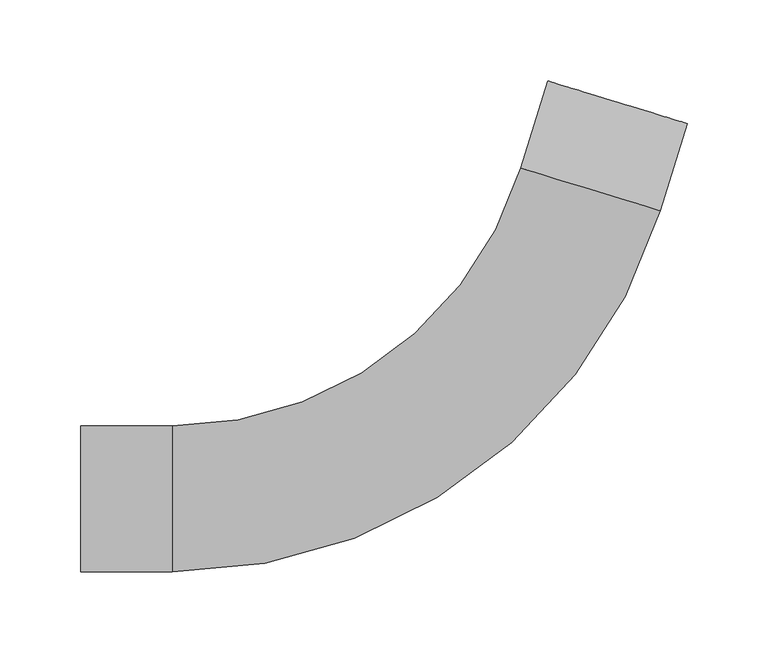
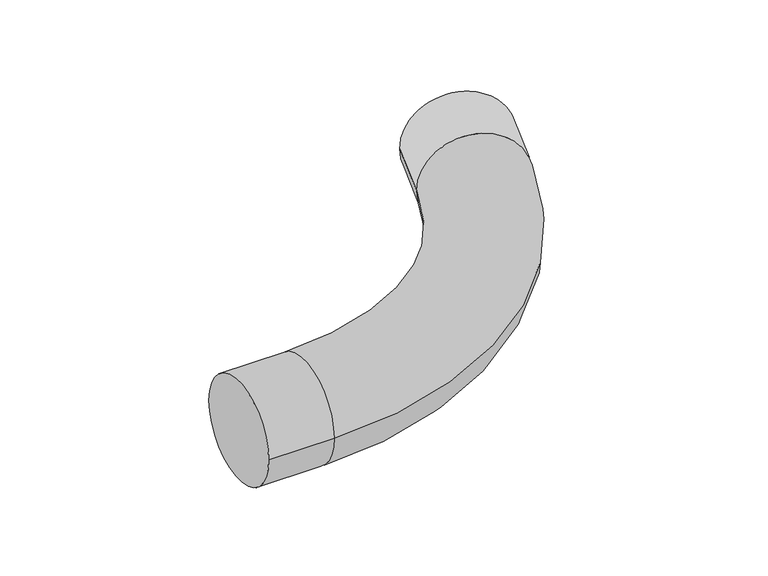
"""IFC4 building model written with IfcOpenShell, lengths in millimetres: cable carrier fitting geometry, Трубы гофрированные двустенные ПНД-ПВД : Трубы гофрированные двустенные ПНД-ПВД."""

from ifc_helpers import new_model, si_unit, point, frame, origin, place, context, project, spatial, circle_curve, ellipse_curve, trimmed, source, transform, mapped, element, save
from ifc_brep_helpers import plane_surface, cylinder_surface, revolved_surface, advanced_brep


def cable_carrier_fitting_97d35811(model_context):
    return source(origin(), model_context, "Body", "AdvancedBrep", [
        advanced_brep(
        [(-256.1894903, -45.0, 0.0), (-256.1894903, 45.0, 0.0), (-199.7894903, -45.0, 0.0), (-199.7894903, 45.0, 0.0), (15.3790798, 204.2163664, 0.0), (101.4465079, 177.902913, 0.0), (117.936272, 231.8385012, 0.0), (31.868844, 258.1519547, 0.0)],
        [
            (0, 1, circle_curve(frame((-256.1894903, 0.0, 0.0), z_axis=(-1.0, 0.0, 0.0), x_axis=(0.0, 1.0, 0.0)), 45.0)),
            (1, 0, circle_curve(frame((-256.1894903, 0.0, 0.0), z_axis=(-1.0, 0.0, 0.0), x_axis=(0.0, 1.0, 0.0)), 45.0)),
            (0, 2),
            (2, 3, circle_curve(frame((-199.7894903, 0.0, 0.0), z_axis=(-1.0, 0.0, 0.0), x_axis=(0.0, 1.0, 0.0)), 45.0)),
            (3, 1),
            (3, 2, circle_curve(frame((-199.7894903, 0.0, 0.0), z_axis=(-1.0, 0.0, 0.0), x_axis=(0.0, 1.0, 0.0)), 45.0)),
            (4, 3, circle_curve(frame((-199.7894903, 270.0, 0.0), z_axis=(0.0, 0.0, -1.0), x_axis=(0.0, -1.0, 0.0)), 225.0)),
            (2, 5, circle_curve(frame((-199.7894903, 270.0, 0.0), z_axis=(0.0, 0.0, 1.0), x_axis=(0.0, -1.0, 0.0)), 315.0)),
            (5, 4, circle_curve(frame((58.4127939, 191.0596397, 0.0), z_axis=(-0.2923717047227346, -0.9563047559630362, 0.0), x_axis=(-0.9563047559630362, 0.2923717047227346, 0.0)), 45.0)),
            (4, 5, circle_curve(frame((58.4127939, 191.0596397, 0.0), z_axis=(-0.2923717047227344, -0.9563047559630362, 0.0), x_axis=(-0.9563047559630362, 0.2923717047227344, 0.0)), 45.0)),
            (6, 7, circle_curve(frame((74.902558, 244.995228, 0.0), z_axis=(0.2923717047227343, 0.9563047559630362, 0.0), x_axis=(-0.9563047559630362, 0.2923717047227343, 0.0)), 45.0)),
            (7, 6, circle_curve(frame((74.902558, 244.995228, 0.0), z_axis=(0.2923717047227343, 0.9563047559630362, 0.0), x_axis=(-0.9563047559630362, 0.2923717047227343, 0.0)), 45.0)),
            (5, 6),
            (7, 4),
        ],
        [
            plane_surface(frame((-256.1894903, 0.0, 0.0), z_axis=(-1.0, 0.0, 0.0), x_axis=(0.0, 0.0, 1.0))),
            cylinder_surface(frame((-256.1894903, 0.0, 0.0), z_axis=(-1.0, 0.0, 0.0), x_axis=(0.0, 1.0, 0.0)), 45.0),
            revolved_surface(trimmed(ellipse_curve(frame((-199.7894903, 0.0, 0.0), z_axis=(-1.0, 0.0, 0.0), x_axis=(0.0, 1.0, 0.0)), 45.0, 45.0), [point((-199.7894903, -45.0, 0.0))], [point((-199.7894903, 45.0, 0.0))], True, "CARTESIAN"), (-199.7894903, 270.0, 0.0), (0.0, 0.0, 1.0)),
            revolved_surface(trimmed(ellipse_curve(frame((-199.7894903, 0.0, 0.0), z_axis=(-1.0, 0.0, 0.0), x_axis=(0.0, 1.0, 0.0)), 45.0, 45.0), [point((-199.7894903, 45.0, 0.0))], [point((-199.7894903, -45.0, 0.0))], True, "CARTESIAN"), (-199.7894903, 270.0, 0.0), (0.0, 0.0, 1.0)),
            plane_surface(frame((74.902558, 244.995228, 0.0), z_axis=(0.2923717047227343, 0.9563047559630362, 0.0), x_axis=(0.0, 0.0, 1.0))),
            cylinder_surface(frame((58.4127939, 191.0596397, 0.0), z_axis=(-0.2923717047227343, -0.9563047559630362, 0.0), x_axis=(-0.9563047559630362, 0.2923717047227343, 0.0)), 45.0),
        ],
        [
            (0, [[1, 2]]),
            (1, [[-1, 3, 4, 5]]),
            (1, [[-2, -5, 6, -3]]),
            (2, [[7, -4, 8, 9]]),
            (3, [[-8, -6, -7, 10]]),
            (4, [[11, 12]]),
            (5, [[-9, 13, -12, 14]]),
            (5, [[-10, -14, -11, -13]]),
        ],
    ),
    ])


if __name__ == "__main__":
    model = new_model("IFC4")
    model_context = context("Model", 3, world=origin())
    ifc_project = project(units=[si_unit("LENGTHUNIT", "METRE", prefix="MILLI")], contexts=[model_context])
    site = spatial("IfcSite", under=ifc_project)
    building = spatial("IfcBuilding", under=site)
    placement = place(None, origin())
    cable_carrier_fitting_shape = cable_carrier_fitting_97d35811(model_context)
    element("IfcCableCarrierFitting", 1, ObjectType="Трубы гофрированные двустенные ПНД-ПВД : Трубы гофрированные двустенные ПНД-ПВД", at=placement, inside=building, context=model_context, shape_type="MappedRepresentation", body=[
        mapped(cable_carrier_fitting_shape, transform((0.0, 0.0, 0.0), x_axis=(1.0, 0.0, 0.0), y_axis=(0.0, 1.0, 0.0), z_axis=(0.0, 0.0, 1.0))),
    ])
    save(model, "model.ifc")
